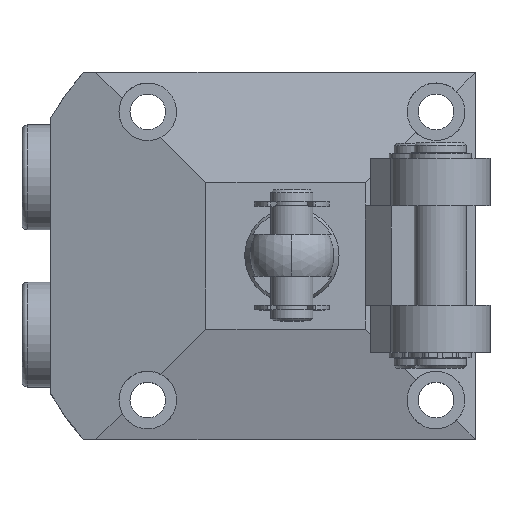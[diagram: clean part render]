
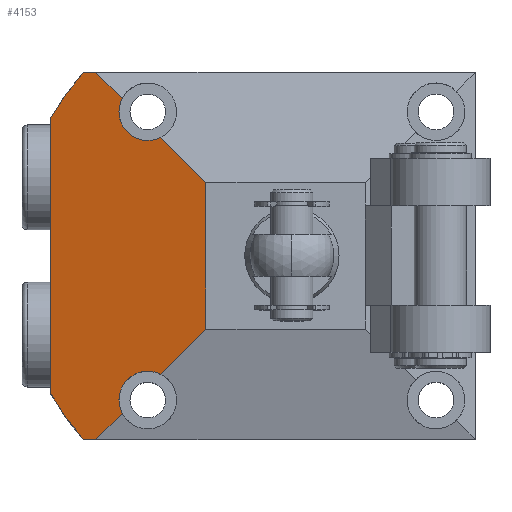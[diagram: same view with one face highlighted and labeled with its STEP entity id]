
A CAD part, top view. The second image highlights one B-rep face of the part: STEP entity #4153.
In plain terms, the highlighted planar face has unit normal (-0.259, 0, 0.966).
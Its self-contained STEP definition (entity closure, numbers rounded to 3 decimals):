
#15 = LINE ( 'NONE', #2137, #4751 ) ;
#237 = CARTESIAN_POINT ( 'NONE',  ( -33., -28.373, 71.052 ) ) ;
#313 = VERTEX_POINT ( 'NONE', #4634 ) ;
#321 = VECTOR ( 'NONE', #4381, 1000. ) ;
#390 = EDGE_CURVE ( 'NONE', #5793, #509, #1639, .T. ) ;
#446 = CARTESIAN_POINT ( 'NONE',  ( -33., -27.5, 71.052 ) ) ;
#505 = FACE_OUTER_BOUND ( 'NONE', #5301, .T. ) ;
#509 = VERTEX_POINT ( 'NONE', #5049 ) ;
#595 = VECTOR ( 'NONE', #2951, 1000. ) ;
#712 = CARTESIAN_POINT ( 'NONE',  ( -16.4, -14., 75.5 ) ) ;
#776 = VECTOR ( 'NONE', #2214, 1000. ) ;
#823 = CARTESIAN_POINT ( 'NONE',  ( -33.342, 30.942, 70.96 ) ) ;
#909 = DIRECTION ( 'NONE',  ( -0.695, -0.695, -0.186 ) ) ;
#918 = CARTESIAN_POINT ( 'NONE',  ( -46., -26.325, 67.569 ) ) ;
#947 = EDGE_CURVE ( 'NONE', #5807, #3763, #2370, .T. ) ;
#1032 =( BOUNDED_CURVE ( )  B_SPLINE_CURVE ( 3, ( #5286, #1120, #2312, #6496 ),
 .UNSPECIFIED., .F., .F. ) 
 B_SPLINE_CURVE_WITH_KNOTS ( ( 4, 4 ),
 ( 3.142, 3.613 ),
 .UNSPECIFIED. ) 
 CURVE ( )  GEOMETRIC_REPRESENTATION_ITEM ( )  RATIONAL_B_SPLINE_CURVE ( ( 1., 0.982, 0.982, 1. ) ) 
 REPRESENTATION_ITEM ( '' )  );
#1080 = DIRECTION ( 'NONE',  ( 0.259, 0., -0.966 ) ) ;
#1120 = CARTESIAN_POINT ( 'NONE',  ( -33., 28.373, 71.052 ) ) ;
#1233 = EDGE_CURVE ( 'NONE', #313, #4881, #3488, .T. ) ;
#1314 = LINE ( 'NONE', #2699, #2704 ) ;
#1316 = CARTESIAN_POINT ( 'NONE',  ( -29.087, -20.516, 72.1 ) ) ;
#1427 = EDGE_CURVE ( 'NONE', #7219, #3238, #2358, .T. ) ;
#1544 = CARTESIAN_POINT ( 'NONE',  ( -32.399, -29.999, 71.213 ) ) ;
#1587 = CARTESIAN_POINT ( 'NONE',  ( -37.4, -35., 69.873 ) ) ;
#1639 =( BOUNDED_CURVE ( )  B_SPLINE_CURVE ( 3, ( #7554, #3979, #4576, #3403 ),
 .UNSPECIFIED., .F., .F. ) 
 B_SPLINE_CURVE_WITH_KNOTS ( ( 4, 4 ),
 ( 1.099, 3.142 ),
 .UNSPECIFIED. ) 
 CURVE ( )  GEOMETRIC_REPRESENTATION_ITEM ( )  RATIONAL_B_SPLINE_CURVE ( ( 1., 0.682, 0.682, 1. ) ) 
 REPRESENTATION_ITEM ( '' )  );
#1671 = EDGE_CURVE ( 'NONE', #3763, #2734, #2824, .T. ) ;
#1709 = CARTESIAN_POINT ( 'NONE',  ( -32.399, 29.999, 71.213 ) ) ;
#1768 = DIRECTION ( 'NONE',  ( 0.695, -0.695, 0.186 ) ) ;
#1849 = CARTESIAN_POINT ( 'NONE',  ( -44.229, -29.42, 68.043 ) ) ;
#1903 = AXIS2_PLACEMENT_3D ( 'NONE', #7616, #1080, #5234 ) ;
#2137 = CARTESIAN_POINT ( 'NONE',  ( -46., 35., 67.569 ) ) ;
#2214 = DIRECTION ( 'NONE',  ( 0.966, 0., 0.259 ) ) ;
#2306 = CARTESIAN_POINT ( 'NONE',  ( -33., -22.912, 71.052 ) ) ;
#2312 = CARTESIAN_POINT ( 'NONE',  ( -32.796, 29.222, 71.107 ) ) ;
#2336 = CARTESIAN_POINT ( 'NONE',  ( -42.155, 32.322, 68.599 ) ) ;
#2356 = ORIENTED_EDGE ( 'NONE', *, *, #3651, .T. ) ;
#2358 = LINE ( 'NONE', #5156, #776 ) ;
#2370 = LINE ( 'NONE', #3389, #595 ) ;
#2548 = ORIENTED_EDGE ( 'NONE', *, *, #6777, .F. ) ;
#2635 = CARTESIAN_POINT ( 'NONE',  ( -16.4, 14., 75.5 ) ) ;
#2699 = CARTESIAN_POINT ( 'NONE',  ( -44.206, -41.806, 68.049 ) ) ;
#2704 = VECTOR ( 'NONE', #909, 1000. ) ;
#2734 = VERTEX_POINT ( 'NONE', #2839 ) ;
#2750 = VERTEX_POINT ( 'NONE', #446 ) ;
#2773 = VERTEX_POINT ( 'NONE', #2870 ) ;
#2824 = LINE ( 'NONE', #7194, #4212 ) ;
#2839 = CARTESIAN_POINT ( 'NONE',  ( -25.001, -22.601, 73.195 ) ) ;
#2870 = CARTESIAN_POINT ( 'NONE',  ( -39.799, 35., 69.23 ) ) ;
#2951 = DIRECTION ( 'NONE',  ( 0., -1., 0. ) ) ;
#3066 = EDGE_CURVE ( 'NONE', #7219, #7412, #5796, .T. ) ;
#3117 = VERTEX_POINT ( 'NONE', #7274 ) ;
#3171 = EDGE_CURVE ( 'NONE', #2750, #2734, #3470, .T. ) ;
#3178 = ORIENTED_EDGE ( 'NONE', *, *, #1233, .F. ) ;
#3238 = VERTEX_POINT ( 'NONE', #1587 ) ;
#3249 = EDGE_CURVE ( 'NONE', #313, #2773, #15, .T. ) ;
#3251 = CARTESIAN_POINT ( 'NONE',  ( -25.001, 22.601, 73.195 ) ) ;
#3380 = VECTOR ( 'NONE', #1768, 1000. ) ;
#3389 = CARTESIAN_POINT ( 'NONE',  ( -16.4, 35.001, 75.5 ) ) ;
#3403 = CARTESIAN_POINT ( 'NONE',  ( -33., 27.5, 71.052 ) ) ;
#3470 =( BOUNDED_CURVE ( )  B_SPLINE_CURVE ( 3, ( #5014, #2306, #1316, #5217 ),
 .UNSPECIFIED., .F., .T. ) 
 B_SPLINE_CURVE_WITH_KNOTS ( ( 4, 4 ),
 ( 3.142, 5.184 ),
 .UNSPECIFIED. ) 
 CURVE ( )  GEOMETRIC_REPRESENTATION_ITEM ( )  RATIONAL_B_SPLINE_CURVE ( ( 1., 0.682, 0.682, 1. ) ) 
 REPRESENTATION_ITEM ( '' )  );
#3488 = LINE ( 'NONE', #823, #321 ) ;
#3555 = CARTESIAN_POINT ( 'NONE',  ( -33.342, 30.942, 70.96 ) ) ;
#3630 = DIRECTION ( 'NONE',  ( -0.695, -0.695, -0.186 ) ) ;
#3651 = EDGE_CURVE ( 'NONE', #3117, #7412, #5106, .T. ) ;
#3716 = CARTESIAN_POINT ( 'NONE',  ( -39.799, -35., 69.23 ) ) ;
#3763 = VERTEX_POINT ( 'NONE', #712 ) ;
#3979 = CARTESIAN_POINT ( 'NONE',  ( -29.087, 20.516, 72.1 ) ) ;
#4101 = DIRECTION ( 'NONE',  ( -0.966, 0., -0.259 ) ) ;
#4153 = ADVANCED_FACE ( 'NONE', ( #505 ), #4636, .F. ) ;
#4212 = VECTOR ( 'NONE', #3630, 1000. ) ;
#4361 = CARTESIAN_POINT ( 'NONE',  ( -42.155, -32.322, 68.599 ) ) ;
#4381 = DIRECTION ( 'NONE',  ( 0.695, -0.695, 0.186 ) ) ;
#4390 = CARTESIAN_POINT ( 'NONE',  ( -33., -27.5, 71.052 ) ) ;
#4576 = CARTESIAN_POINT ( 'NONE',  ( -33., 22.912, 71.052 ) ) ;
#4634 = CARTESIAN_POINT ( 'NONE',  ( -37.4, 35., 69.873 ) ) ;
#4636 = PLANE ( 'NONE',  #1903 ) ;
#4723 = ORIENTED_EDGE ( 'NONE', *, *, #5522, .F. ) ;
#4751 = VECTOR ( 'NONE', #4101, 1000. ) ;
#4881 = VERTEX_POINT ( 'NONE', #1709 ) ;
#4980 = ORIENTED_EDGE ( 'NONE', *, *, #3066, .F. ) ;
#5014 = CARTESIAN_POINT ( 'NONE',  ( -33., -27.5, 71.052 ) ) ;
#5049 = CARTESIAN_POINT ( 'NONE',  ( -33., 27.5, 71.052 ) ) ;
#5106 = LINE ( 'NONE', #6802, #6530 ) ;
#5156 = CARTESIAN_POINT ( 'NONE',  ( -46., -35., 67.569 ) ) ;
#5217 = CARTESIAN_POINT ( 'NONE',  ( -25.001, -22.601, 73.195 ) ) ;
#5234 = DIRECTION ( 'NONE',  ( -0.966, 0., -0.259 ) ) ;
#5235 = ORIENTED_EDGE ( 'NONE', *, *, #6102, .F. ) ;
#5286 = CARTESIAN_POINT ( 'NONE',  ( -33., 27.5, 71.052 ) ) ;
#5295 = VERTEX_POINT ( 'NONE', #1544 ) ;
#5301 = EDGE_LOOP ( 'NONE', ( #6199, #2548, #7293, #7335, #7413, #7212, #4723, #7411, #7320, #3178, #7508, #5235, #2356, #4980 ) ) ;
#5309 = CARTESIAN_POINT ( 'NONE',  ( -44.229, 29.42, 68.043 ) ) ;
#5318 = CARTESIAN_POINT ( 'NONE',  ( -46., -26.325, 67.569 ) ) ;
#5326 = CARTESIAN_POINT ( 'NONE',  ( -39.799, -35., 69.23 ) ) ;
#5522 = EDGE_CURVE ( 'NONE', #5793, #5807, #6542, .T. ) ;
#5793 = VERTEX_POINT ( 'NONE', #3251 ) ;
#5796 =( BOUNDED_CURVE ( )  B_SPLINE_CURVE ( 3, ( #5326, #4361, #1849, #918 ),
 .UNSPECIFIED., .F., .T. ) 
 B_SPLINE_CURVE_WITH_KNOTS ( ( 4, 4 ),
 ( 2.42, 2.622 ),
 .UNSPECIFIED. ) 
 CURVE ( )  GEOMETRIC_REPRESENTATION_ITEM ( )  RATIONAL_B_SPLINE_CURVE ( ( 1., 0.997, 0.997, 1. ) ) 
 REPRESENTATION_ITEM ( '' )  );
#5807 = VERTEX_POINT ( 'NONE', #2635 ) ;
#6000 =( BOUNDED_CURVE ( )  B_SPLINE_CURVE ( 3, ( #6167, #7365, #237, #4390 ),
 .UNSPECIFIED., .F., .T. ) 
 B_SPLINE_CURVE_WITH_KNOTS ( ( 4, 4 ),
 ( 2.67, 3.142 ),
 .UNSPECIFIED. ) 
 CURVE ( )  GEOMETRIC_REPRESENTATION_ITEM ( )  RATIONAL_B_SPLINE_CURVE ( ( 1., 0.982, 0.982, 1. ) ) 
 REPRESENTATION_ITEM ( '' )  );
#6074 = EDGE_CURVE ( 'NONE', #509, #4881, #1032, .T. ) ;
#6102 = EDGE_CURVE ( 'NONE', #3117, #2773, #7381, .T. ) ;
#6167 = CARTESIAN_POINT ( 'NONE',  ( -32.399, -29.999, 71.213 ) ) ;
#6199 = ORIENTED_EDGE ( 'NONE', *, *, #1427, .T. ) ;
#6407 = EDGE_CURVE ( 'NONE', #5295, #2750, #6000, .T. ) ;
#6496 = CARTESIAN_POINT ( 'NONE',  ( -32.399, 29.999, 71.213 ) ) ;
#6520 = CARTESIAN_POINT ( 'NONE',  ( -39.799, 35., 69.23 ) ) ;
#6530 = VECTOR ( 'NONE', #7397, 1000. ) ;
#6542 = LINE ( 'NONE', #3555, #3380 ) ;
#6777 = EDGE_CURVE ( 'NONE', #5295, #3238, #1314, .T. ) ;
#6802 = CARTESIAN_POINT ( 'NONE',  ( -46., 35.001, 67.569 ) ) ;
#7194 = CARTESIAN_POINT ( 'NONE',  ( -44.206, -41.806, 68.049 ) ) ;
#7212 = ORIENTED_EDGE ( 'NONE', *, *, #947, .F. ) ;
#7219 = VERTEX_POINT ( 'NONE', #3716 ) ;
#7274 = CARTESIAN_POINT ( 'NONE',  ( -46., 26.325, 67.569 ) ) ;
#7293 = ORIENTED_EDGE ( 'NONE', *, *, #6407, .T. ) ;
#7320 = ORIENTED_EDGE ( 'NONE', *, *, #6074, .T. ) ;
#7335 = ORIENTED_EDGE ( 'NONE', *, *, #3171, .T. ) ;
#7365 = CARTESIAN_POINT ( 'NONE',  ( -32.796, -29.222, 71.107 ) ) ;
#7381 =( BOUNDED_CURVE ( )  B_SPLINE_CURVE ( 3, ( #7657, #5309, #2336, #6520 ),
 .UNSPECIFIED., .F., .F. ) 
 B_SPLINE_CURVE_WITH_KNOTS ( ( 4, 4 ),
 ( 3.661, 3.863 ),
 .UNSPECIFIED. ) 
 CURVE ( )  GEOMETRIC_REPRESENTATION_ITEM ( )  RATIONAL_B_SPLINE_CURVE ( ( 1., 0.997, 0.997, 1. ) ) 
 REPRESENTATION_ITEM ( '' )  );
#7397 = DIRECTION ( 'NONE',  ( 0., -1., 0. ) ) ;
#7411 = ORIENTED_EDGE ( 'NONE', *, *, #390, .T. ) ;
#7412 = VERTEX_POINT ( 'NONE', #5318 ) ;
#7413 = ORIENTED_EDGE ( 'NONE', *, *, #1671, .F. ) ;
#7508 = ORIENTED_EDGE ( 'NONE', *, *, #3249, .T. ) ;
#7554 = CARTESIAN_POINT ( 'NONE',  ( -25.001, 22.601, 73.195 ) ) ;
#7616 = CARTESIAN_POINT ( 'NONE',  ( -46., 35.001, 67.569 ) ) ;
#7657 = CARTESIAN_POINT ( 'NONE',  ( -46., 26.325, 67.569 ) ) ;
